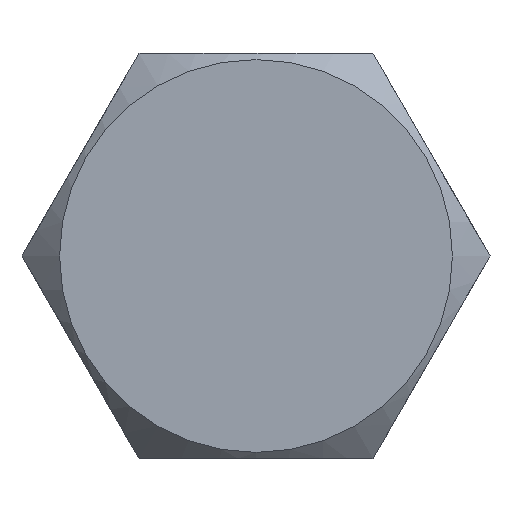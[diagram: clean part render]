
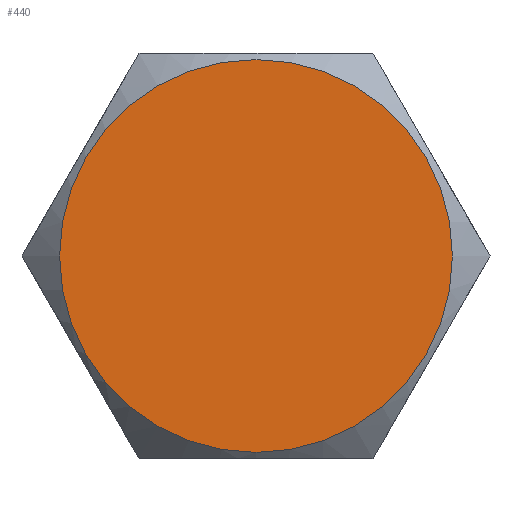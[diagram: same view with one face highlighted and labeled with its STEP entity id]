
A CAD part, front view. The second image highlights one B-rep face of the part: STEP entity #440.
In plain terms, the highlighted planar face has unit normal (0, -1, 0).
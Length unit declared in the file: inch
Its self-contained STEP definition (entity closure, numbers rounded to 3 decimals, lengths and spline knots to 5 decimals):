
#42=PLANE('',#506);
#117=FACE_OUTER_BOUND('',#147,.T.);
#147=EDGE_LOOP('',(#405));
#171=CIRCLE('',#505,0.3635);
#216=VERTEX_POINT('',#835);
#278=EDGE_CURVE('',#216,#216,#171,.T.);
#405=ORIENTED_EDGE('',*,*,#278,.F.);
#440=ADVANCED_FACE('',(#117),#42,.T.);
#505=AXIS2_PLACEMENT_3D('',#836,#628,#629);
#506=AXIS2_PLACEMENT_3D('',#838,#631,#632);
#628=DIRECTION('center_axis',(0.,1.,0.));
#629=DIRECTION('ref_axis',(0.,0.,1.));
#631=DIRECTION('center_axis',(0.,-1.,0.));
#632=DIRECTION('ref_axis',(0.,0.,-1.));
#835=CARTESIAN_POINT('',(0.,0.,-0.3635));
#836=CARTESIAN_POINT('Origin',(0.,0.,0.));
#838=CARTESIAN_POINT('Origin',(0.,0.,0.));
